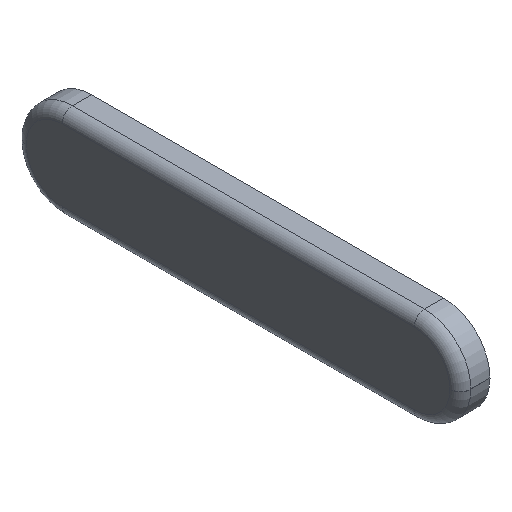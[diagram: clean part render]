
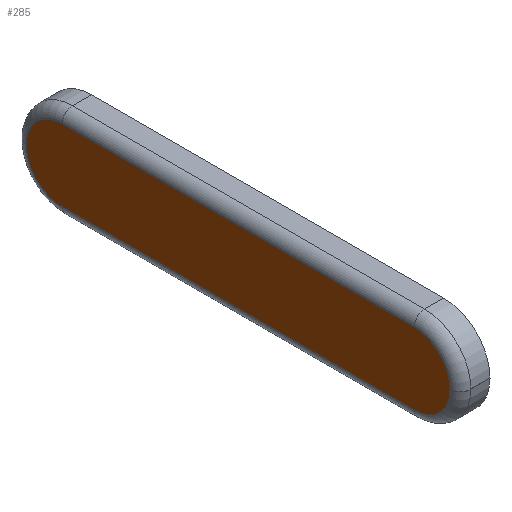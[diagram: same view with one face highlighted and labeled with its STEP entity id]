
A CAD part, isometric view. The second image highlights one B-rep face of the part: STEP entity #285.
In plain terms, the highlighted planar face has unit normal (-1, 0, 0).
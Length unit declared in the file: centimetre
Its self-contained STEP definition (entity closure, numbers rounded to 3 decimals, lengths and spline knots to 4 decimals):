
#17=PLANE('',#335);
#37=FACE_OUTER_BOUND('',#55,.T.);
#55=EDGE_LOOP('',(#233,#234,#235,#236,#237,#238,#239,#240));
#61=LINE('',#447,#81);
#64=LINE('',#462,#84);
#66=LINE('',#474,#86);
#68=LINE('',#486,#88);
#81=VECTOR('',#349,1.);
#84=VECTOR('',#366,1.);
#86=VECTOR('',#380,1.);
#88=VECTOR('',#394,1.);
#105=CIRCLE('',#311,0.579);
#109=CIRCLE('',#317,0.579);
#113=CIRCLE('',#323,0.579);
#116=CIRCLE('',#328,0.579);
#122=VERTEX_POINT('',#444);
#123=VERTEX_POINT('',#446);
#125=VERTEX_POINT('',#452);
#127=VERTEX_POINT('',#458);
#129=VERTEX_POINT('',#464);
#131=VERTEX_POINT('',#470);
#133=VERTEX_POINT('',#476);
#135=VERTEX_POINT('',#482);
#146=EDGE_CURVE('',#122,#123,#61,.T.);
#151=EDGE_CURVE('',#123,#125,#105,.T.);
#154=EDGE_CURVE('',#125,#127,#64,.T.);
#157=EDGE_CURVE('',#127,#129,#109,.T.);
#160=EDGE_CURVE('',#129,#131,#66,.T.);
#163=EDGE_CURVE('',#131,#133,#113,.T.);
#166=EDGE_CURVE('',#133,#135,#68,.T.);
#168=EDGE_CURVE('',#135,#122,#116,.T.);
#233=ORIENTED_EDGE('',*,*,#146,.F.);
#234=ORIENTED_EDGE('',*,*,#168,.F.);
#235=ORIENTED_EDGE('',*,*,#166,.F.);
#236=ORIENTED_EDGE('',*,*,#163,.F.);
#237=ORIENTED_EDGE('',*,*,#160,.F.);
#238=ORIENTED_EDGE('',*,*,#157,.F.);
#239=ORIENTED_EDGE('',*,*,#154,.F.);
#240=ORIENTED_EDGE('',*,*,#151,.F.);
#285=ADVANCED_FACE('',(#37),#17,.F.);
#311=AXIS2_PLACEMENT_3D('',#456,#359,#360);
#317=AXIS2_PLACEMENT_3D('',#468,#373,#374);
#323=AXIS2_PLACEMENT_3D('',#480,#387,#388);
#328=AXIS2_PLACEMENT_3D('',#489,#399,#400);
#335=AXIS2_PLACEMENT_3D('',#508,#420,#421);
#349=DIRECTION('',(0.,-1.,0.));
#359=DIRECTION('center_axis',(1.,0.,0.));
#360=DIRECTION('ref_axis',(0.,-0.707,0.707));
#366=DIRECTION('',(0.,0.,-1.));
#373=DIRECTION('center_axis',(1.,0.,0.));
#374=DIRECTION('ref_axis',(0.,-0.707,-0.707));
#380=DIRECTION('',(0.,1.,0.));
#387=DIRECTION('center_axis',(1.,0.,0.));
#388=DIRECTION('ref_axis',(0.,0.707,-0.707));
#394=DIRECTION('',(0.,0.,1.));
#399=DIRECTION('center_axis',(1.,0.,0.));
#400=DIRECTION('ref_axis',(0.,0.707,0.707));
#420=DIRECTION('center_axis',(1.,0.,0.));
#421=DIRECTION('ref_axis',(0.,0.,-1.));
#444=CARTESIAN_POINT('',(-4.68,2.851,0.58));
#446=CARTESIAN_POINT('',(-4.68,-2.851,0.58));
#447=CARTESIAN_POINT('',(-4.68,1.4255,0.58));
#452=CARTESIAN_POINT('',(-4.68,-3.43,0.001));
#456=CARTESIAN_POINT('Origin',(-4.68,-2.851,0.001));
#458=CARTESIAN_POINT('',(-4.68,-3.43,-0.001));
#462=CARTESIAN_POINT('',(-4.68,-3.43,0.0005));
#464=CARTESIAN_POINT('',(-4.68,-2.851,-0.58));
#468=CARTESIAN_POINT('Origin',(-4.68,-2.851,-0.001));
#470=CARTESIAN_POINT('',(-4.68,2.851,-0.58));
#474=CARTESIAN_POINT('',(-4.68,-1.4255,-0.58));
#476=CARTESIAN_POINT('',(-4.68,3.43,-0.001));
#480=CARTESIAN_POINT('Origin',(-4.68,2.851,-0.001));
#482=CARTESIAN_POINT('',(-4.68,3.43,0.001));
#486=CARTESIAN_POINT('',(-4.68,3.43,-0.0005));
#489=CARTESIAN_POINT('Origin',(-4.68,2.851,0.001));
#508=CARTESIAN_POINT('Origin',(-4.68,0.,0.));
